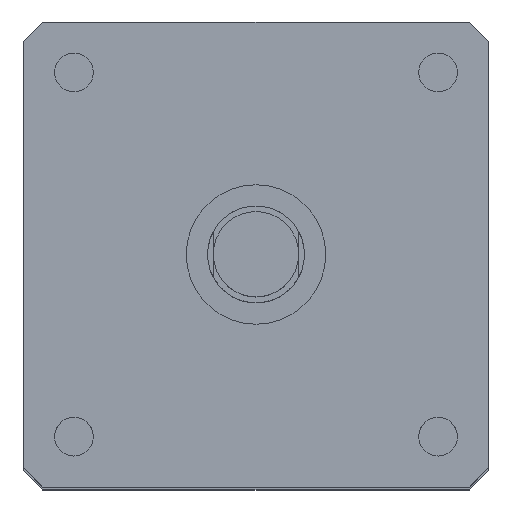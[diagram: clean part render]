
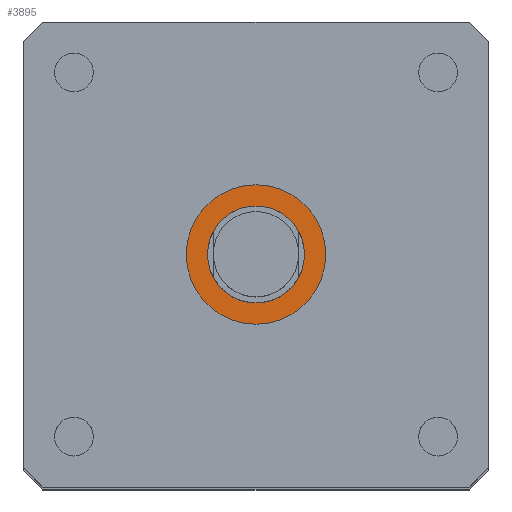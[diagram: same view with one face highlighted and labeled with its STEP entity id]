
A CAD part, top view. The second image highlights one B-rep face of the part: STEP entity #3895.
In plain terms, the highlighted planar face has unit normal (0, 0, 1).
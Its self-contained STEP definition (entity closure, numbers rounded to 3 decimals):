
#60 = VERTEX_POINT ( 'NONE', #180 ) ;
#130 = EDGE_LOOP ( 'NONE', ( #2756, #3253 ) ) ;
#171 = VERTEX_POINT ( 'NONE', #4645 ) ;
#180 = CARTESIAN_POINT ( 'NONE',  ( 18., 0., 25. ) ) ;
#235 = ORIENTED_EDGE ( 'NONE', *, *, #291, .T. ) ;
#291 = EDGE_CURVE ( 'NONE', #171, #60, #2773, .T. ) ;
#324 = DIRECTION ( 'NONE',  ( 0., 0., 1. ) ) ;
#340 = CARTESIAN_POINT ( 'NONE',  ( -12.5, 0., 25. ) ) ;
#360 = EDGE_CURVE ( 'NONE', #937, #3989, #4584, .T. ) ;
#365 = DIRECTION ( 'NONE',  ( 1., 0., 0. ) ) ;
#370 = DIRECTION ( 'NONE',  ( 0., 0., 1. ) ) ;
#386 = CARTESIAN_POINT ( 'NONE',  ( 0., 0., 25. ) ) ;
#493 = PLANE ( 'NONE',  #1230 ) ;
#656 = AXIS2_PLACEMENT_3D ( 'NONE', #3068, #324, #2680 ) ;
#937 = VERTEX_POINT ( 'NONE', #340 ) ;
#974 = CIRCLE ( 'NONE', #2280, 12.5 ) ;
#1230 = AXIS2_PLACEMENT_3D ( 'NONE', #386, #370, #365 ) ;
#1398 = FACE_OUTER_BOUND ( 'NONE', #2186, .T. ) ;
#2150 = CIRCLE ( 'NONE', #656, 18. ) ;
#2186 = EDGE_LOOP ( 'NONE', ( #235, #3649 ) ) ;
#2280 = AXIS2_PLACEMENT_3D ( 'NONE', #3640, #3628, #3606 ) ;
#2562 = AXIS2_PLACEMENT_3D ( 'NONE', #3624, #3614, #3604 ) ;
#2612 = CARTESIAN_POINT ( 'NONE',  ( 12.5, 0., 25. ) ) ;
#2680 = DIRECTION ( 'NONE',  ( 1., 0., 0. ) ) ;
#2695 = AXIS2_PLACEMENT_3D ( 'NONE', #4042, #4034, #4024 ) ;
#2756 = ORIENTED_EDGE ( 'NONE', *, *, #360, .F. ) ;
#2773 = CIRCLE ( 'NONE', #2695, 18. ) ;
#3068 = CARTESIAN_POINT ( 'NONE',  ( 0., 0., 25. ) ) ;
#3253 = ORIENTED_EDGE ( 'NONE', *, *, #3292, .F. ) ;
#3292 = EDGE_CURVE ( 'NONE', #3989, #937, #974, .T. ) ;
#3345 = FACE_BOUND ( 'NONE', #130, .T. ) ;
#3604 = DIRECTION ( 'NONE',  ( 1., 0., 0. ) ) ;
#3606 = DIRECTION ( 'NONE',  ( 1., 0., 0. ) ) ;
#3614 = DIRECTION ( 'NONE',  ( 0., 0., 1. ) ) ;
#3624 = CARTESIAN_POINT ( 'NONE',  ( 0., 0., 25. ) ) ;
#3628 = DIRECTION ( 'NONE',  ( 0., 0., 1. ) ) ;
#3640 = CARTESIAN_POINT ( 'NONE',  ( 0., 0., 25. ) ) ;
#3649 = ORIENTED_EDGE ( 'NONE', *, *, #4118, .T. ) ;
#3895 = ADVANCED_FACE ( 'NONE', ( #1398, #3345 ), #493, .T. ) ;
#3989 = VERTEX_POINT ( 'NONE', #2612 ) ;
#4024 = DIRECTION ( 'NONE',  ( 1., 0., 0. ) ) ;
#4034 = DIRECTION ( 'NONE',  ( 0., 0., 1. ) ) ;
#4042 = CARTESIAN_POINT ( 'NONE',  ( 0., 0., 25. ) ) ;
#4118 = EDGE_CURVE ( 'NONE', #60, #171, #2150, .T. ) ;
#4584 = CIRCLE ( 'NONE', #2562, 12.5 ) ;
#4645 = CARTESIAN_POINT ( 'NONE',  ( -18., 0., 25. ) ) ;
